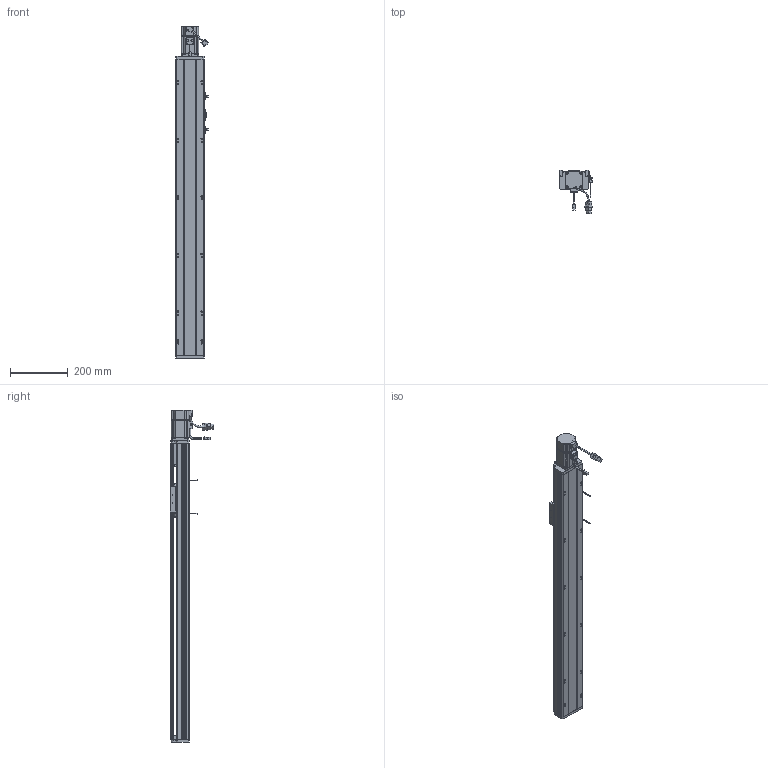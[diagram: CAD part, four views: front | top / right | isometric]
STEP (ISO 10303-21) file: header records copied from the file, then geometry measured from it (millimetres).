
FILE_DESCRIPTION (( 'STEP AP214' ), '1' );
FILE_NAME ('CTH10-800.STEP', '2019-11-18T08:15:38', ( '微软用户' ), ( '微软中国' ), 'SwSTEP 2.0', 'SolidWorks 2017', '' );
FILE_SCHEMA (( 'AUTOMOTIVE_DESIGN' ));
Length unit declared in the file: millimetre
Products named in the file (34): CTH10-800; CTH10-底座_默认<按加工>; CTH10-移动座_默认<按加工>; CTH10-蹟簽蟀諉啣; CTH10-盓傅釱; CTH10-傷啣; CTH10-侜督萇儂啣; SFH1605-288; SFH1605; CTH10-盖板_默认<按加工>; 怢湛200W侜督萇儂ECMA-CX0602ES; CTH10-粣創釱; BEARING_BaseModel20190604090351; 7001-DF; 粣創揤啣; COL12B-粣遠; 坶踡蹟譫; M4-L8囀鞠褒蹟佪; M3-L10囀鞠褒蹟佪; CTH10粣創釱蚾饜极; M5-L20囀鞠褒蹟佪; 遣喳蝶15x12x8; 6000Z粣創; M4-L6半圆头内六角螺丝; EE-SX672; M3-L8囀鞠褒蹟佪; 100耀郪-覜茼んえ; MGN12C; MGN12C-R1; MGN12C-2R420-Z0CHC; 噩砃M3-L10囀鞠褒蹟佪; 噩砃MGN12C; 噩砃MGN12C-R1; 噩砃MGN12C-2R420-Z0CHC
Assembly tree (100 placements, depth 4):
  CTH10-800
    CTH10-底座_默认<按加工>
    CTH10-移动座_默认<按加工>
    CTH10-蹟簽蟀諉啣
    CTH10-盓傅釱
    CTH10-傷啣
    CTH10-侜督萇儂啣
    SFH1605-288
    SFH1605
    CTH10-盖板_默认<按加工>
    怢湛200W侜督萇儂ECMA-CX0602ES
    CTH10粣創釱蚾饜极
      CTH10-粣創釱
      7001-DF
        BEARING_BaseModel20190604090351  x2
      粣創揤啣
      COL12B-粣遠  x2
      坶踡蹟譫
      M4-L8囀鞠褒蹟佪  x4
      M3-L10囀鞠褒蹟佪  x6
    M3-L10囀鞠褒蹟佪  x19
    M5-L20囀鞠褒蹟佪  x4
    遣喳蝶15x12x8  x3
    6000Z粣創
    M4-L6半圆头内六角螺丝  x4
    M4-L8囀鞠褒蹟佪  x8
    EE-SX672  x2
    M3-L8囀鞠褒蹟佪  x4
    100耀郪-覜茼んえ
    MGN12C-2R420-Z0CHC
      MGN12C
      MGN12C-R1  x2
      M3-L10囀鞠褒蹟佪  x8
    噩砃M3-L10囀鞠褒蹟佪
    噩砃MGN12C-2R420-Z0CHC
      噩砃MGN12C
      噩砃MGN12C-R1  x2
      噩砃M3-L10囀鞠褒蹟佪  x8
Bounding box: 114.24 x 151.37 x 1152 mm (x, y, z)
Volume: 2905457.3 mm3; surface area: 1086373.1 mm2
Topology: 96 solids, 105 shells, 4705 faces, 11922 edges, 7444 vertices
Faces by surface type: plane 2346, cylinder 1472, cone 601, bspline 241, torus 33, sphere 12
Entity records: 100852 total; most frequent: CARTESIAN_POINT 30582, ORIENTED_EDGE 14348, DIRECTION 13759, EDGE_CURVE 7174, AXIS2_PLACEMENT_3D 4930, VERTEX_POINT 4658, LINE 3899, VECTOR 3899
